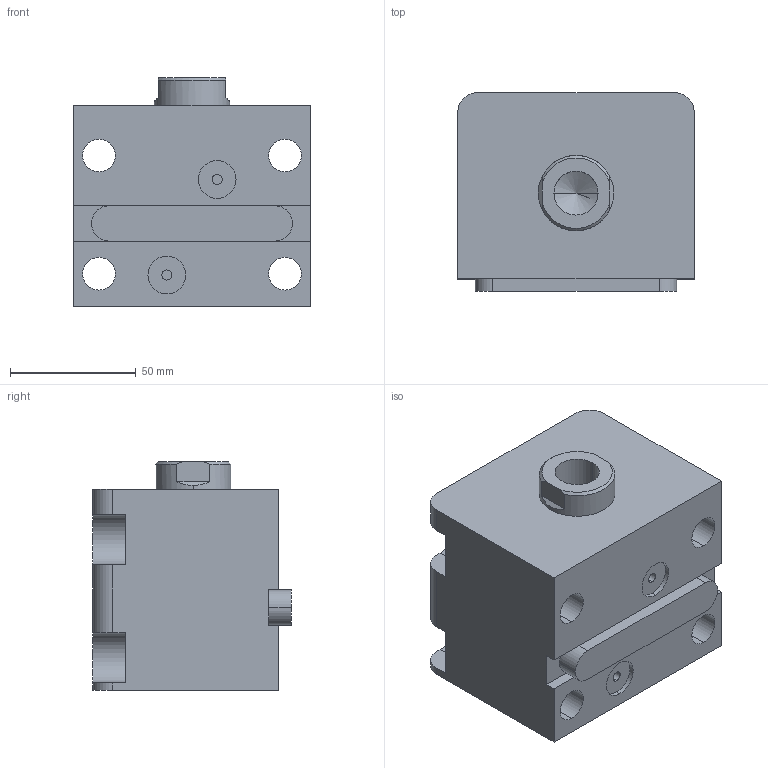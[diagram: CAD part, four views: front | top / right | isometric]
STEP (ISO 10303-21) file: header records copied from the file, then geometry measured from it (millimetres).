
FILE_DESCRIPTION (( 'STEP AP203' ), '1' );
FILE_NAME ('HTB-LAM50-20N.STEP', '2023-03-20T00:44:13', ( '微软用户' ), ( '微软中国' ), 'SwSTEP 2.0', 'SolidWorks 2012', '' );
FILE_SCHEMA (( 'CONFIG_CONTROL_DESIGN' ));
Length unit declared in the file: millimetre
Products named in the file (4): HTB-LAM50-20N; HTB-LWM50-瑩; HTB-LAM50-20N活塞杆; HTB-LAM50-20掛极
Assembly tree (3 placements, depth 2):
  HTB-LAM50-20N
    HTB-LAM50-20掛极
    HTB-LAM50-20N活塞杆
    HTB-LWM50-瑩
Bounding box: 94 x 79 x 91 mm (x, y, z)
Volume: 483719.5 mm3; surface area: 81440.8 mm2
Topology: 3 solids, 3 shells, 86 faces, 213 edges, 139 vertices
Faces by surface type: cylinder 39, plane 39, torus 4, cone 4
Entity records: 3001 total; most frequent: DIRECTION 475, CARTESIAN_POINT 470, ORIENTED_EDGE 422, EDGE_CURVE 211, AXIS2_PLACEMENT_3D 180, VERTEX_POINT 139, VECTOR 115, LINE 115
